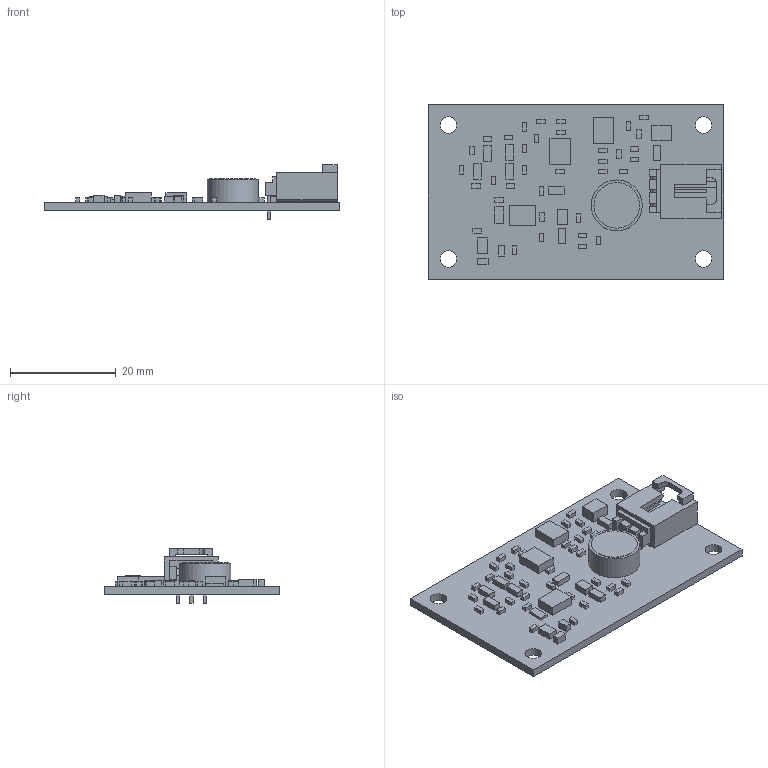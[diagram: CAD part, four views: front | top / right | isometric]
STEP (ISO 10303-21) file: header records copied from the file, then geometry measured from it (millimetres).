
FILE_DESCRIPTION(('Open CASCADE Model'),'2;1');
FILE_NAME('Open CASCADE Shape Model','2010-10-28T09:33:57',('Author'),( 'Open CASCADE'),'Open CASCADE STEP processor 6.2','Open CASCADE 6.2' ,'Unknown');
FILE_SCHEMA(('AUTOMOTIVE_DESIGN { 1 0 10303 214 1 1 1 1 }'));
Length unit declared in the file: millimetre
Products named in the file (84): PCB; Board; R18; 478783936; Extruded; C11; 478789824; C10; 478788672; C9; C8; U2; 845307424; U5; 478794176; U6; 478799424; U4; 845312672; U1; R22; R20; R17; R16; R15; R14; R8; R7; R13; R12; R11; R10; R9; R6; R4; R3; R2; R1; R5; J2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
Assembly tree (123 placements, depth 4):
  PCB
    Board
    R18
      478783936
        Extruded
    C11
      478789824
        Extruded
    C10
      478788672
        Extruded
    C9
      478788672
        Extruded
    C8
      478788672
        Extruded
    U2
      845307424
        Extruded
    U5
      478794176
        Extruded
    U6
      478799424
        Extruded
    U4
      845312672
        Extruded
    U1
      478794176
        Extruded
    R22
      478789824
        Extruded
    R20
      478789824
        Extruded
    R17
      478789824
        Extruded
    R16
      478788672
        Extruded
    R15
      478789824
        Extruded
    R14
      478789824
        Extruded
    R8
      478788672
        Extruded
    R7
      478789824
        Extruded
    R13
      478789824
        Extruded
    R12
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Bounding box: 55.88 x 33.02 x 10.29 mm (x, y, z)
Volume: 3789.1 mm3; surface area: 5874.5 mm2
Topology: 55 solids, 55 shells, 440 faces, 971 edges, 652 vertices
Faces by surface type: plane 421, cylinder 19
Full cylindrical faces by diameter (mm): 0.889 x2, 0.965 x3, 3.175 x4, 8.636 x1, 9.652 x1
Entity records: 14077 total; most frequent: CARTESIAN_POINT 2315, DIRECTION 2083, LINE 1337, VECTOR 1337, ORIENTED_EDGE 964, PCURVE 964, DEFINITIONAL_REPRESENTATION 964, EDGE_CURVE 482
